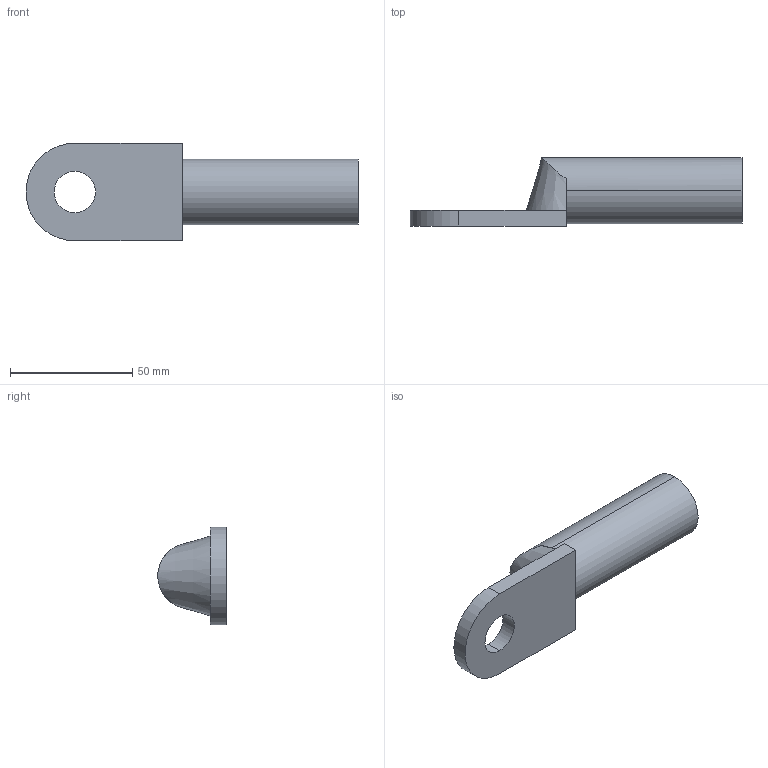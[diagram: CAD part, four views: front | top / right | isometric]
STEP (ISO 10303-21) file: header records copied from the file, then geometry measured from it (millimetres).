
FILE_DESCRIPTION (( 'STEP AP214' ), '1' );
FILE_NAME ('DT-240-16.STEP', '2020-04-24T12:44:39', ( '' ), ( '' ), 'SwSTEP 2.0', 'SolidWorks 2018', '' );
FILE_SCHEMA (( 'AUTOMOTIVE_DESIGN' ));
Length unit declared in the file: millimetre
Products named in the file (1): DT-240-16
Bounding box: 136 x 28 x 40 mm (x, y, z)
Volume: 37286.9 mm3; surface area: 17803.5 mm2
Topology: 1 solids, 1 shells, 17 faces, 40 edges, 26 vertices
Faces by surface type: plane 9, cylinder 7, cone 1
Entity records: 593 total; most frequent: CARTESIAN_POINT 145, DIRECTION 93, ORIENTED_EDGE 80, EDGE_CURVE 40, AXIS2_PLACEMENT_3D 36, VERTEX_POINT 26, LINE 21, VECTOR 21
